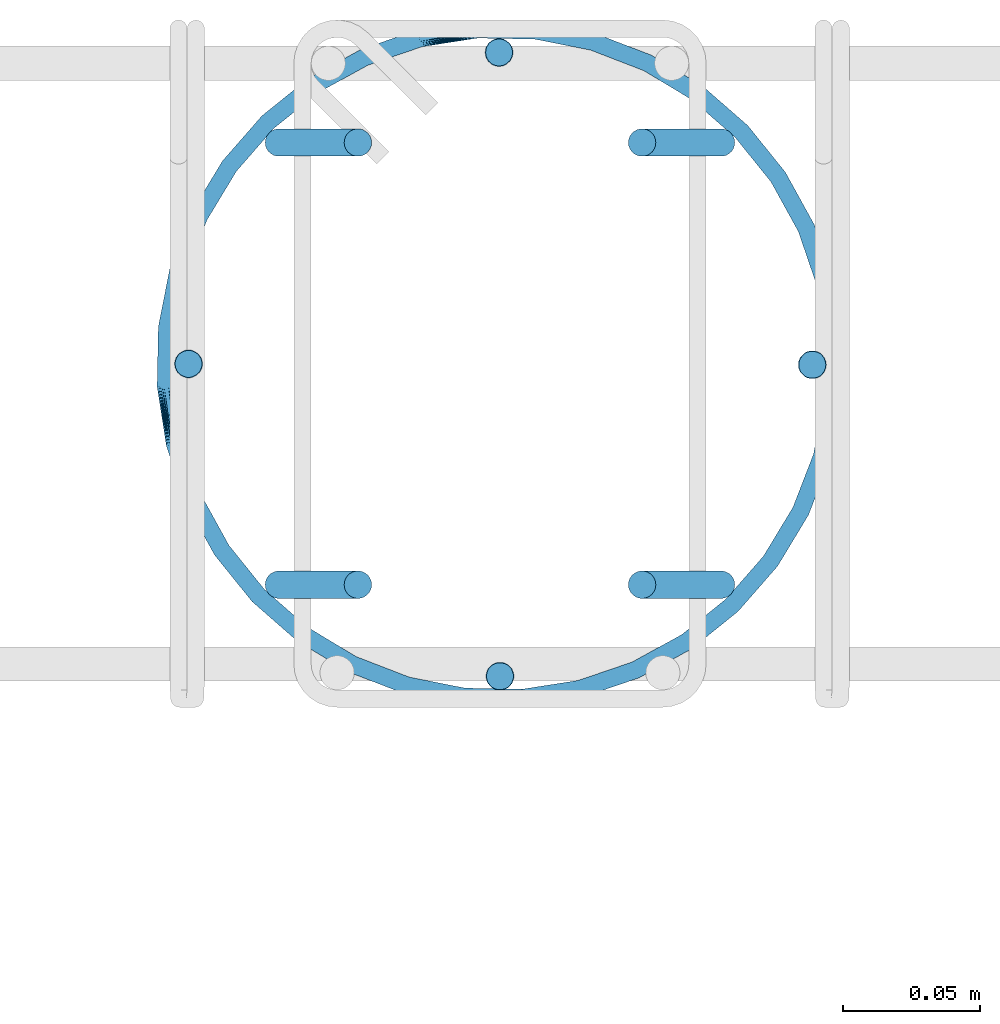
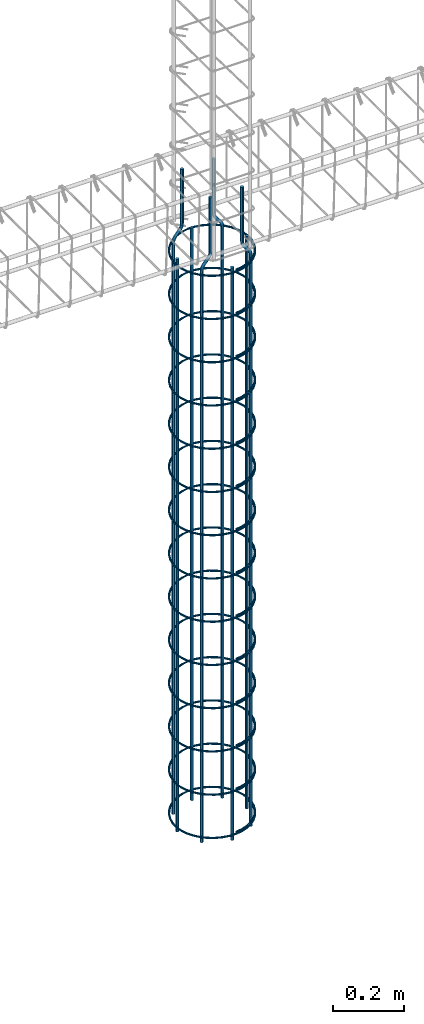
# One storey, part 10 of 14: 7 reinforcing bars.
"""IFC4 building model written with IfcOpenShell, lengths in centimetres."""

from ifc_helpers import new_model, entity, si_unit, converted_unit, derived_unit, direction, frame, origin, place, context, subcontext, project, spatial, type_object, element, save


model = new_model("IFC4")

# Units and contexts
model_context = context("Model", 3, precision=0.001, world=origin(), true_north=direction((6.123233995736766e-17, 1.0)))
body_context = subcontext(model_context, "Body", "Model", "MODEL_VIEW")
ifc_project = project(units=[si_unit("LENGTHUNIT", "METRE", prefix="CENTI"), si_unit("AREAUNIT", "SQUARE_METRE"), converted_unit("PLANEANGLEUNIT", "DEGREE", entity("IfcPlaneAngleMeasure", 0.017453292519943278), si_unit("PLANEANGLEUNIT", "RADIAN"), dimensions=[0, 0, 0, 0, 0, 0, 0]), si_unit("VOLUMEUNIT", "CUBIC_METRE"), derived_unit("THERMALTRANSMITTANCEUNIT", [(si_unit("MASSUNIT", "GRAM", prefix="KILO"), 1), (si_unit("THERMODYNAMICTEMPERATUREUNIT", "KELVIN"), -1), (si_unit("TIMEUNIT", "SECOND"), -3)])], contexts=[model_context])

# Site, building, storey
site_placement = place(None, origin())
site = spatial("IfcSite", under=ifc_project, at=site_placement, Name="Default", CompositionType="ELEMENT")
building_placement = place(site_placement, origin())
building = spatial("IfcBuilding", under=site, at=building_placement, Name="CONTENÇÃO DE ARQUIBANCADA - GINÁSIO PADRÃO", CompositionType="ELEMENT")
storey_placement = place(building_placement, frame((0.0, 0.0, -100.0)))
storey = spatial("IfcBuildingStorey", under=building, at=storey_placement, Name="Nível 3", CompositionType="ELEMENT", Elevation=-100.0)

# Reinforcing bars
reinforcing_bar_type_1 = type_object("IfcReinforcingBarType", Name="Barra do vergalhão:10 CA-50", PredefinedType="NOTDEFINED")
reinforcing_bar_1_placement = place(storey_placement, origin())
element("IfcReinforcingBar", 1, at=reinforcing_bar_1_placement, inside=storey, type_object=reinforcing_bar_type_1, Name="Barra do vergalhão:10 CA-50 : Forma 01", ObjectType="Barra do vergalhão:10 CA-50", context=body_context, shape_type="AdvancedSweptSolid", body=[
    entity("IfcSweptDiskSolid", entity("IfcIndexedPolyCurve", entity("IfcCartesianPointList3D", [[363.1267334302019, 249.06545923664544, -129.99999999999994], [363.1267334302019, 249.06545923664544, 68.00000000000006]]), None, False), 0.5, None, 0.0, 1.0),
    entity("IfcSweptDiskSolid", entity("IfcIndexedPolyCurve", entity("IfcCartesianPointList3D", [[385.81660058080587, 249.032757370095, -129.99999999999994], [385.81660058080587, 249.032757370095, 68.00000000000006]]), None, False), 0.5, None, 0.0, 1.0),
])
reinforcing_bar_2_placement = place(storey_placement, origin())
element("IfcReinforcingBar", 2, at=reinforcing_bar_2_placement, inside=storey, type_object=reinforcing_bar_type_1, Name="Barra do vergalhão:10 CA-50 : Forma 01", ObjectType="Barra do vergalhão:10 CA-50", context=body_context, shape_type="AdvancedSweptSolid", body=[
    entity("IfcSweptDiskSolid", entity("IfcIndexedPolyCurve", entity("IfcCartesianPointList3D", [[374.4226142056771, 260.3940418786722, -129.99999999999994], [374.4226142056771, 260.3940418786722, 68.00000000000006]]), None, False), 0.5, None, 0.0, 1.0),
    entity("IfcSweptDiskSolid", entity("IfcIndexedPolyCurve", entity("IfcCartesianPointList3D", [[374.45531607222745, 237.70417472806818, -129.99999999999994], [374.45531607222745, 237.70417472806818, 68.00000000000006]]), None, False), 0.5, None, 0.0, 1.0),
])
reinforcing_bar_3_placement = place(storey_placement, origin())
element("IfcReinforcingBar", 3, at=reinforcing_bar_3_placement, inside=storey, type_object=reinforcing_bar_type_1, Name="Barra do vergalhão:10 CA-50 : Forma 19", ObjectType="Barra do vergalhão:10 CA-50", context=body_context, shape_type="AdvancedSweptSolid", body=[
    entity("IfcSweptDiskSolid", entity("IfcIndexedPolyCurve", entity("IfcCartesianPointList3D", [[382.49613089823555, 257.11499005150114, -129.99999999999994], [382.49613089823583, 257.11499005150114, 67.4289900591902], [382.32148148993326, 257.11499005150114, 68.43764958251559], [381.8178682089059, 257.11499005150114, 69.32886791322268], [380.3023062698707, 257.11499005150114, 71.18095366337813], [379.79869298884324, 257.11499005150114, 72.07217199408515], [379.6240435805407, 257.1149900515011, 73.08083151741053], [379.6240435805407, 257.1149900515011, 92.00982157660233]]), [entity("IfcLineIndex", [1, 2]), entity("IfcArcIndex", [2, 3, 4]), entity("IfcLineIndex", [4, 5]), entity("IfcArcIndex", [5, 6, 7]), entity("IfcLineIndex", [7, 8])], False), 0.5, None, 0.0, 81.58693171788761),
])
reinforcing_bar_4_placement = place(storey_placement, origin())
element("IfcReinforcingBar", 4, at=reinforcing_bar_4_placement, inside=storey, type_object=reinforcing_bar_type_1, Name="Barra do vergalhão:10 CA-50 : Forma 19", ObjectType="Barra do vergalhão:10 CA-50", context=body_context, shape_type="AdvancedSweptSolid", body=[
    entity("IfcSweptDiskSolid", entity("IfcIndexedPolyCurve", entity("IfcCartesianPointList3D", [[366.41450124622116, 257.11499005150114, -129.99999999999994], [366.4145012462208, 257.11499005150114, 67.4289900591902], [366.5891506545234, 257.11499005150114, 68.43764958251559], [367.0927639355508, 257.11499005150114, 69.32886791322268], [368.608325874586, 257.11499005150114, 71.18095366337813], [369.1119391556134, 257.11499005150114, 72.07217199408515], [369.2865885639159, 257.1149900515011, 73.08083151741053], [369.2865885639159, 257.1149900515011, 92.00982157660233]]), [entity("IfcLineIndex", [1, 2]), entity("IfcArcIndex", [2, 3, 4]), entity("IfcLineIndex", [4, 5]), entity("IfcArcIndex", [5, 6, 7]), entity("IfcLineIndex", [7, 8])], False), 0.5, None, 0.0, 81.58693171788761),
])
reinforcing_bar_5_placement = place(storey_placement, origin())
element("IfcReinforcingBar", 5, at=reinforcing_bar_5_placement, inside=storey, type_object=reinforcing_bar_type_1, Name="Barra do vergalhão:10 CA-50 : Forma 19", ObjectType="Barra do vergalhão:10 CA-50", context=body_context, shape_type="AdvancedSweptSolid", body=[
    entity("IfcSweptDiskSolid", entity("IfcIndexedPolyCurve", entity("IfcCartesianPointList3D", [[382.49613089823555, 241.0333603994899, -129.99999999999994], [382.49613089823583, 241.0333603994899, 67.4289900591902], [382.32148148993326, 241.0333603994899, 68.43764958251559], [381.8178682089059, 241.0333603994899, 69.32886791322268], [380.3023062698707, 241.0333603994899, 71.18095366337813], [379.79869298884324, 241.0333603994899, 72.07217199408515], [379.6240435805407, 241.0333603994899, 73.08083151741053], [379.6240435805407, 241.0333603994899, 92.00982157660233]]), [entity("IfcLineIndex", [1, 2]), entity("IfcArcIndex", [2, 3, 4]), entity("IfcLineIndex", [4, 5]), entity("IfcArcIndex", [5, 6, 7]), entity("IfcLineIndex", [7, 8])], False), 0.5, None, 0.0, 81.58693171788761),
])
reinforcing_bar_6_placement = place(storey_placement, origin())
element("IfcReinforcingBar", 6, at=reinforcing_bar_6_placement, inside=storey, type_object=reinforcing_bar_type_1, Name="Barra do vergalhão:10 CA-50 : Forma 19", ObjectType="Barra do vergalhão:10 CA-50", context=body_context, shape_type="AdvancedSweptSolid", body=[
    entity("IfcSweptDiskSolid", entity("IfcIndexedPolyCurve", entity("IfcCartesianPointList3D", [[366.41450124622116, 241.0333603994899, -129.99999999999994], [366.4145012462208, 241.0333603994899, 67.4289900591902], [366.5891506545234, 241.0333603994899, 68.43764958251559], [367.0927639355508, 241.0333603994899, 69.32886791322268], [368.608325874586, 241.0333603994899, 71.18095366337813], [369.1119391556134, 241.0333603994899, 72.07217199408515], [369.2865885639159, 241.0333603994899, 73.08083151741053], [369.2865885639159, 241.0333603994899, 92.00982157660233]]), [entity("IfcLineIndex", [1, 2]), entity("IfcArcIndex", [2, 3, 4]), entity("IfcLineIndex", [4, 5]), entity("IfcArcIndex", [5, 6, 7]), entity("IfcLineIndex", [7, 8])], False), 0.5, None, 0.0, 81.58693171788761),
])
reinforcing_bar_type_2 = type_object("IfcReinforcingBarType", Name="Barra do vergalhão:6.3 CA-50", PredefinedType="NOTDEFINED")
reinforcing_bar_7_placement = place(storey_placement, origin())
element("IfcReinforcingBar", 7, at=reinforcing_bar_7_placement, inside=storey, type_object=reinforcing_bar_type_2, Name="Barra do vergalhão:6.3 CA-50 : Forma 33", ObjectType="Barra do vergalhão:6.3 CA-50", context=body_context, shape_type="AdvancedSweptSolid", body=[
    entity("IfcSweptDiskSolid", entity("IfcIndexedPolyCurve", entity("IfcCartesianPointList3D", [[375.2748352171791, 236.91676541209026, -127.19078734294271], [386.6127258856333, 249.89369437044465, -127.19078734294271], [373.63579692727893, 261.23158503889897, -127.19078734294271], [365.2792416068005, 257.09127460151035, -127.50578734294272], [362.2979062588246, 248.25465608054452, -127.82078734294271], [375.27483521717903, 236.91676541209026, -127.82078734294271], [386.6127258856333, 249.8936943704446, -127.82078734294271]]), [entity("IfcArcIndex", [1, 2, 3]), entity("IfcArcIndex", [3, 4, 5]), entity("IfcArcIndex", [5, 6, 7])], False), 0.31499999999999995, None, 0.0, 449.9458977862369),
    entity("IfcSweptDiskSolid", entity("IfcIndexedPolyCurve", entity("IfcCartesianPointList3D", [[375.2748352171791, 236.91676541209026, -112.23880370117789], [386.6127258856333, 249.89369437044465, -112.23880370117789], [373.63579692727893, 261.23158503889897, -112.23880370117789], [365.2792416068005, 257.09127460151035, -112.5538037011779], [362.2979062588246, 248.25465608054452, -112.86880370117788], [375.27483521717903, 236.91676541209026, -112.86880370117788], [386.6127258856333, 249.8936943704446, -112.86880370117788]]), [entity("IfcArcIndex", [1, 2, 3]), entity("IfcArcIndex", [3, 4, 5]), entity("IfcArcIndex", [5, 6, 7])], False), 0.31499999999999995, None, 0.0, 449.9458977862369),
    entity("IfcSweptDiskSolid", entity("IfcIndexedPolyCurve", entity("IfcCartesianPointList3D", [[375.2748352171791, 236.91676541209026, -97.28682005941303], [386.6127258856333, 249.89369437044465, -97.28682005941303], [373.63579692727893, 261.23158503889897, -97.28682005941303], [365.2792416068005, 257.09127460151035, -97.60182005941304], [362.2979062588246, 248.25465608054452, -97.91682005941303], [375.27483521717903, 236.91676541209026, -97.91682005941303], [386.6127258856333, 249.8936943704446, -97.91682005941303]]), [entity("IfcArcIndex", [1, 2, 3]), entity("IfcArcIndex", [3, 4, 5]), entity("IfcArcIndex", [5, 6, 7])], False), 0.31499999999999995, None, 0.0, 449.9458977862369),
    entity("IfcSweptDiskSolid", entity("IfcIndexedPolyCurve", entity("IfcCartesianPointList3D", [[375.2748352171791, 236.91676541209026, -82.33483641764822], [386.6127258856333, 249.89369437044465, -82.33483641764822], [373.63579692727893, 261.23158503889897, -82.33483641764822], [365.2792416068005, 257.09127460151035, -82.64983641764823], [362.2979062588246, 248.25465608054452, -82.9648364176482], [375.27483521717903, 236.91676541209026, -82.9648364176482], [386.6127258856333, 249.8936943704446, -82.9648364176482]]), [entity("IfcArcIndex", [1, 2, 3]), entity("IfcArcIndex", [3, 4, 5]), entity("IfcArcIndex", [5, 6, 7])], False), 0.31499999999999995, None, 0.0, 449.9458977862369),
    entity("IfcSweptDiskSolid", entity("IfcIndexedPolyCurve", entity("IfcCartesianPointList3D", [[375.2748352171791, 236.91676541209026, -67.38285277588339], [386.6127258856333, 249.89369437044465, -67.38285277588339], [373.63579692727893, 261.23158503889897, -67.38285277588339], [365.2792416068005, 257.09127460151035, -67.6978527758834], [362.2979062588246, 248.25465608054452, -68.01285277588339], [375.27483521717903, 236.91676541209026, -68.01285277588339], [386.6127258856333, 249.8936943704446, -68.01285277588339]]), [entity("IfcArcIndex", [1, 2, 3]), entity("IfcArcIndex", [3, 4, 5]), entity("IfcArcIndex", [5, 6, 7])], False), 0.31499999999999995, None, 0.0, 449.9458977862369),
    entity("IfcSweptDiskSolid", entity("IfcIndexedPolyCurve", entity("IfcCartesianPointList3D", [[375.2748352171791, 236.91676541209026, -52.43086913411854], [386.6127258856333, 249.89369437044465, -52.43086913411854], [373.63579692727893, 261.23158503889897, -52.430869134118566], [365.2792416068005, 257.09127460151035, -52.74586913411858], [362.2979062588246, 248.25465608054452, -53.06086913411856], [375.27483521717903, 236.91676541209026, -53.06086913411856], [386.6127258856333, 249.8936943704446, -53.06086913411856]]), [entity("IfcArcIndex", [1, 2, 3]), entity("IfcArcIndex", [3, 4, 5]), entity("IfcArcIndex", [5, 6, 7])], False), 0.31499999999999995, None, 0.0, 449.9458977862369),
    entity("IfcSweptDiskSolid", entity("IfcIndexedPolyCurve", entity("IfcCartesianPointList3D", [[375.2748352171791, 236.91676541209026, -37.47888549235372], [386.6127258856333, 249.89369437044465, -37.47888549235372], [373.63579692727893, 261.23158503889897, -37.47888549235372], [365.2792416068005, 257.09127460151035, -37.79388549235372], [362.2979062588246, 248.25465608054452, -38.10888549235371], [375.27483521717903, 236.91676541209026, -38.10888549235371], [386.6127258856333, 249.8936943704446, -38.10888549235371]]), [entity("IfcArcIndex", [1, 2, 3]), entity("IfcArcIndex", [3, 4, 5]), entity("IfcArcIndex", [5, 6, 7])], False), 0.31499999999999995, None, 0.0, 449.9458977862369),
    entity("IfcSweptDiskSolid", entity("IfcIndexedPolyCurve", entity("IfcCartesianPointList3D", [[375.2748352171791, 236.91676541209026, -22.526901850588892], [386.6127258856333, 249.89369437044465, -22.526901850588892], [373.63579692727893, 261.23158503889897, -22.526901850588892], [365.2792416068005, 257.09127460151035, -22.841901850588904], [362.2979062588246, 248.25465608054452, -23.156901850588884], [375.27483521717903, 236.91676541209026, -23.156901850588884], [386.6127258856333, 249.8936943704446, -23.156901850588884]]), [entity("IfcArcIndex", [1, 2, 3]), entity("IfcArcIndex", [3, 4, 5]), entity("IfcArcIndex", [5, 6, 7])], False), 0.31499999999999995, None, 0.0, 449.9458977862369),
    entity("IfcSweptDiskSolid", entity("IfcIndexedPolyCurve", entity("IfcCartesianPointList3D", [[375.2748352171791, 236.91676541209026, -7.574918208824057], [386.6127258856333, 249.89369437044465, -7.574918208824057], [373.63579692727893, 261.23158503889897, -7.57491820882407], [365.2792416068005, 257.09127460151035, -7.889918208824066], [362.2979062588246, 248.25465608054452, -8.204918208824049], [375.27483521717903, 236.91676541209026, -8.204918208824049], [386.6127258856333, 249.8936943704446, -8.204918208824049]]), [entity("IfcArcIndex", [1, 2, 3]), entity("IfcArcIndex", [3, 4, 5]), entity("IfcArcIndex", [5, 6, 7])], False), 0.31499999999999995, None, 0.0, 449.9458977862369),
    entity("IfcSweptDiskSolid", entity("IfcIndexedPolyCurve", entity("IfcCartesianPointList3D", [[375.2748352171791, 236.91676541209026, 7.37706543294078], [386.6127258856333, 249.89369437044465, 7.37706543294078], [373.63579692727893, 261.23158503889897, 7.377065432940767], [365.2792416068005, 257.09127460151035, 7.062065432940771], [362.2979062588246, 248.25465608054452, 6.747065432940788], [375.27483521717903, 236.91676541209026, 6.747065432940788], [386.6127258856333, 249.8936943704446, 6.747065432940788]]), [entity("IfcArcIndex", [1, 2, 3]), entity("IfcArcIndex", [3, 4, 5]), entity("IfcArcIndex", [5, 6, 7])], False), 0.31499999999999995, None, 0.0, 449.9458977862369),
    entity("IfcSweptDiskSolid", entity("IfcIndexedPolyCurve", entity("IfcCartesianPointList3D", [[375.2748352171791, 236.91676541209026, 22.329049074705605], [386.6127258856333, 249.89369437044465, 22.329049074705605], [373.63579692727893, 261.23158503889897, 22.32904907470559], [365.2792416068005, 257.09127460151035, 22.014049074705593], [362.2979062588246, 248.25465608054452, 21.699049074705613], [375.27483521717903, 236.91676541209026, 21.699049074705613], [386.6127258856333, 249.8936943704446, 21.699049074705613]]), [entity("IfcArcIndex", [1, 2, 3]), entity("IfcArcIndex", [3, 4, 5]), entity("IfcArcIndex", [5, 6, 7])], False), 0.31499999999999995, None, 0.0, 449.9458977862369),
    entity("IfcSweptDiskSolid", entity("IfcIndexedPolyCurve", entity("IfcCartesianPointList3D", [[375.2748352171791, 236.91676541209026, 37.28103271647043], [386.6127258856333, 249.89369437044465, 37.28103271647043], [373.63579692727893, 261.23158503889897, 37.28103271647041], [365.2792416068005, 257.09127460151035, 36.966032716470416], [362.2979062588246, 248.25465608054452, 36.65103271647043], [375.27483521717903, 236.91676541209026, 36.65103271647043], [386.6127258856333, 249.8936943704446, 36.65103271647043]]), [entity("IfcArcIndex", [1, 2, 3]), entity("IfcArcIndex", [3, 4, 5]), entity("IfcArcIndex", [5, 6, 7])], False), 0.31499999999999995, None, 0.0, 449.9458977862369),
    entity("IfcSweptDiskSolid", entity("IfcIndexedPolyCurve", entity("IfcCartesianPointList3D", [[375.2748352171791, 236.91676541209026, 52.233016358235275], [386.6127258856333, 249.89369437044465, 52.233016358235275], [373.63579692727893, 261.23158503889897, 52.23301635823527], [365.2792416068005, 257.09127460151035, 51.91801635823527], [362.2979062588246, 248.25465608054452, 51.60301635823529], [375.27483521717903, 236.91676541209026, 51.60301635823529], [386.6127258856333, 249.8936943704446, 51.60301635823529]]), [entity("IfcArcIndex", [1, 2, 3]), entity("IfcArcIndex", [3, 4, 5]), entity("IfcArcIndex", [5, 6, 7])], False), 0.31499999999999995, None, 0.0, 449.9458977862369),
    entity("IfcSweptDiskSolid", entity("IfcIndexedPolyCurve", entity("IfcCartesianPointList3D", [[375.2748352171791, 236.91676541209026, 67.1850000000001], [386.6127258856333, 249.89369437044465, 67.1850000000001], [373.63579692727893, 261.23158503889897, 67.1850000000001], [365.2792416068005, 257.09127460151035, 66.87000000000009], [362.2979062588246, 248.25465608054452, 66.5550000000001], [375.27483521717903, 236.91676541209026, 66.5550000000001], [386.6127258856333, 249.8936943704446, 66.5550000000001]]), [entity("IfcArcIndex", [1, 2, 3]), entity("IfcArcIndex", [3, 4, 5]), entity("IfcArcIndex", [5, 6, 7])], False), 0.31499999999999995, None, 0.0, 449.9458977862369),
])

save(model, "model.ifc")
